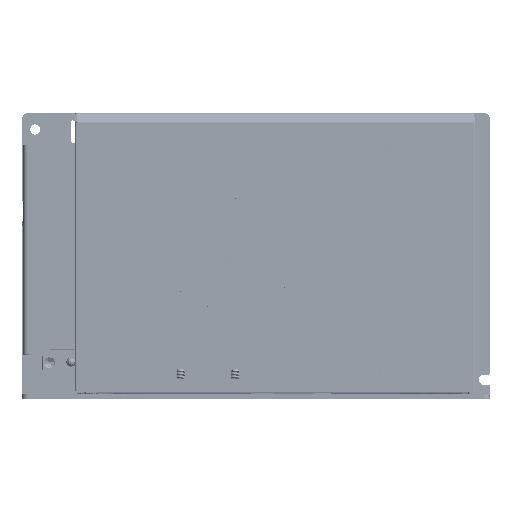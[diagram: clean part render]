
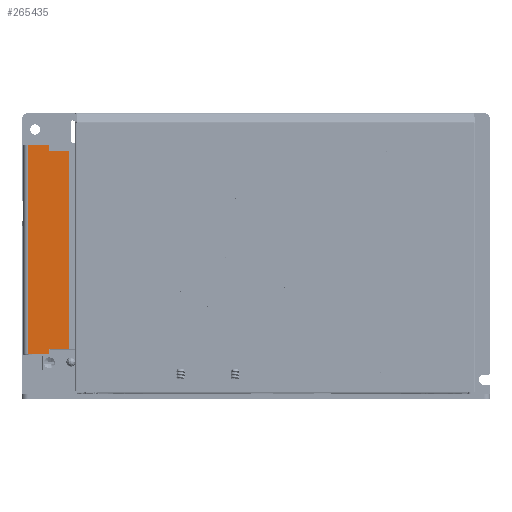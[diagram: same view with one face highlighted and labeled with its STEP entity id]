
A CAD part, top view. The second image highlights one B-rep face of the part: STEP entity #265435.
In plain terms, the highlighted free-form (B-spline) face has degree [3, 3] with [4, 4] control points.
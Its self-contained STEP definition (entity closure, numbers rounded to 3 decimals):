
#245304=DIRECTION('',(0.,1.,0.));
#245305=VECTOR('',#245304,1.9);
#245306=CARTESIAN_POINT('',(-70.324,35.74,22.301));
#245307=LINE('',#245306,#245305);
#245316=DIRECTION('',(-1.,0.,0.));
#245317=VECTOR('',#245316,6.7);
#245318=CARTESIAN_POINT('',(-63.624,35.74,22.301));
#245319=LINE('',#245318,#245317);
#245320=DIRECTION('',(0.,1.,0.));
#245321=VECTOR('',#245320,67.3);
#245322=CARTESIAN_POINT('',(-63.624,-31.56,22.301));
#245323=LINE('',#245322,#245321);
#245328=DIRECTION('',(1.,0.,0.));
#245329=VECTOR('',#245328,6.7);
#245330=CARTESIAN_POINT('',(-70.324,-31.56,22.301));
#245331=LINE('',#245330,#245329);
#245340=DIRECTION('',(0.,1.,0.));
#245341=VECTOR('',#245340,1.9);
#245342=CARTESIAN_POINT('',(-70.324,-33.46,22.301));
#245343=LINE('',#245342,#245341);
#245386=DIRECTION('',(-1.,0.,0.));
#245387=VECTOR('',#245386,7.3);
#245388=CARTESIAN_POINT('',(-70.324,-33.46,22.301));
#245389=LINE('',#245388,#245387);
#245390=DIRECTION('',(0.,1.,0.));
#245391=VECTOR('',#245390,71.1);
#245392=CARTESIAN_POINT('',(-77.624,-33.46,22.301));
#245393=LINE('',#245392,#245391);
#245394=DIRECTION('',(1.,0.,
0.));
#245395=VECTOR('',#245394,7.3);
#245396=CARTESIAN_POINT('',(-77.624,37.64,
22.301));
#245397=LINE('',#245396,#245395);
#261397=CARTESIAN_POINT('',(-77.624,37.64,
22.301));
#261399=VERTEX_POINT('',#261397);
#261409=CARTESIAN_POINT('',(-77.624,-33.46,22.301));
#261410=VERTEX_POINT('',#261409);
#261411=CARTESIAN_POINT('',(-70.324,-33.46,22.301));
#261412=VERTEX_POINT('',#261411);
#261417=CARTESIAN_POINT('',(-63.624,-31.56,22.301));
#261418=CARTESIAN_POINT('',(-63.624,35.74,22.301));
#261419=VERTEX_POINT('',#261417);
#261420=VERTEX_POINT('',#261418);
#261421=CARTESIAN_POINT('',(-70.324,-31.56,22.301));
#261422=VERTEX_POINT('',#261421);
#261423=CARTESIAN_POINT('',(-70.324,37.64,22.301));
#261424=VERTEX_POINT('',#261423);
#261425=CARTESIAN_POINT('',(-70.324,35.74,22.301));
#261426=VERTEX_POINT('',#261425);
#265408=CARTESIAN_POINT('',(-63.344,39.062,22.301));
#265409=CARTESIAN_POINT('',(-63.344,14.414,22.301));
#265410=CARTESIAN_POINT('',(-63.344,-10.234,22.301));
#265411=CARTESIAN_POINT('',(-63.344,-34.882,22.301));
#265412=CARTESIAN_POINT('',(-68.197,39.062,22.301));
#265413=CARTESIAN_POINT('',(-68.197,14.414,22.301));
#265414=CARTESIAN_POINT('',(-68.198,-10.234,22.301));
#265415=CARTESIAN_POINT('',(-68.198,-34.882,22.301));
#265416=CARTESIAN_POINT('',(-73.05,39.062,22.301));
#265417=CARTESIAN_POINT('',(-73.051,14.414,22.301));
#265418=CARTESIAN_POINT('',(-73.051,-10.234,22.301));
#265419=CARTESIAN_POINT('',(-73.051,-34.882,22.301));
#265420=CARTESIAN_POINT('',(-77.904,39.062,22.301));
#265421=CARTESIAN_POINT('',(-77.904,14.414,22.301));
#265422=CARTESIAN_POINT('',(-77.904,-10.234,22.301));
#265423=CARTESIAN_POINT('',(-77.904,-34.882,22.301));
#265424=B_SPLINE_SURFACE_WITH_KNOTS('',3,3,((#265408,#265409,#265410,#265411),(
#265412,#265413,#265414,#265415),(#265416,#265417,#265418,#265419),(#265420,
#265421,#265422,#265423)),.UNSPECIFIED.,.F.,.F.,.F.,(4,4),(4,4),(-5.28,
9.28),(-1.422,72.522),.UNSPECIFIED.);
#265425=ORIENTED_EDGE('',*,*,#265237,.F.);
#265426=ORIENTED_EDGE('',*,*,#265263,.F.);
#265427=ORIENTED_EDGE('',*,*,#265289,.F.);
#265428=ORIENTED_EDGE('',*,*,#265322,.T.);
#265429=ORIENTED_EDGE('',*,*,#265403,.T.);
#265430=ORIENTED_EDGE('',*,*,#265151,.T.);
#265431=ORIENTED_EDGE('',*,*,#265185,.F.);
#265432=ORIENTED_EDGE('',*,*,#265211,.F.);
#265433=EDGE_LOOP('',(#265425,#265426,#265427,#265428,#265429,#265430,#265431,
#265432));
#265434=FACE_OUTER_BOUND('',#265433,.F.);
#265435=ADVANCED_FACE('',(#265434),#265424,.T.);
#265151=EDGE_CURVE('',#261399,#261424,#245397,.T.);
#265185=EDGE_CURVE('',#261426,#261424,#245307,.T.);
#265211=EDGE_CURVE('',#261420,#261426,#245319,.T.);
#265237=EDGE_CURVE('',#261419,#261420,#245323,.T.);
#265263=EDGE_CURVE('',#261422,#261419,#245331,.T.);
#265289=EDGE_CURVE('',#261412,#261422,#245343,.T.);
#265322=EDGE_CURVE('',#261412,#261410,#245389,.T.);
#265403=EDGE_CURVE('',#261410,#261399,#245393,.T.);
